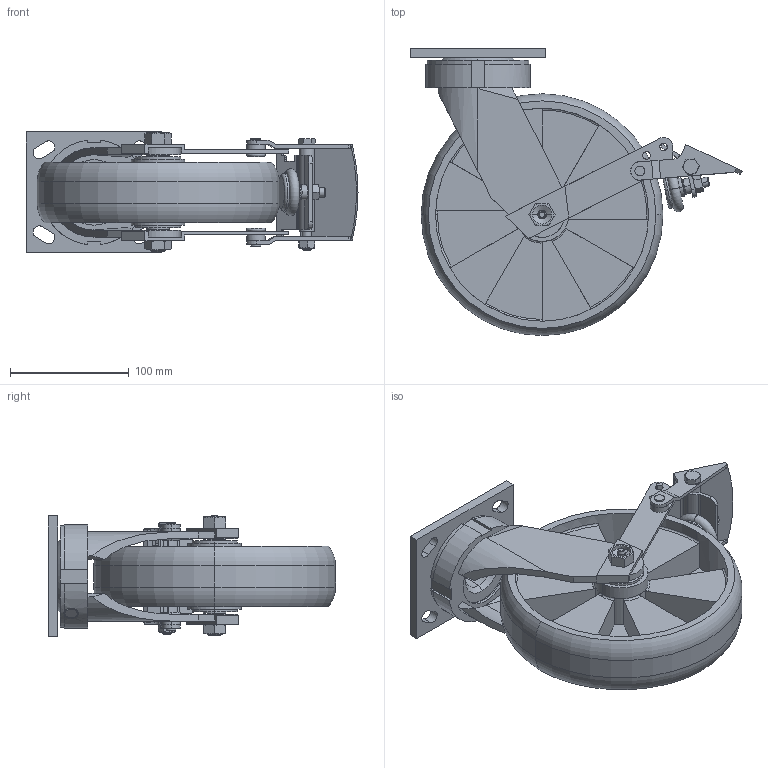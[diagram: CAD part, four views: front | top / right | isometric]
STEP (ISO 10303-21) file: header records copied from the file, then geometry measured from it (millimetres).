
FILE_DESCRIPTION (( 'STEP AP203' ), '1' );
FILE_NAME ('8渡蕨喳僻湍价陬.STEP', '2023-03-06T06:16:47', ( 'amidn' ), ( '' ), 'SwSTEP 2.0', 'SolidWorks 2018', '' );
FILE_SCHEMA (( 'CONFIG_CONTROL_DESIGN' ));
Length unit declared in the file: millimetre
Products named in the file (13): _50116.03^4.08189.539 BRK1(2)_4.08189.539 BRK1; _55000.23^4.08189.539 BRK1(2)_4.08189.539 BRK1; 4.08189.539 BRK1(2)^4.08189.539 BRK1; _SK-9905X95-4 BRK1-F^4.08189.539 BRK1(2)_4.08189.539 BRK1; _05944.20(3.194)^4.08189.539 BRK1(2)_4.08189.539 BRK1; _5.00008.539 (T)^4.08189.539 BRK1(2)_4.08189.539 BRK1; _52000.08^4.08189.539 BRK1(2)_4.08189.539 BRK1; _59044X58-TLBL^4.08189.539 BRK1(2)_4.08189.539 BRK1; _59044X57-TLBR^4.08189.539 BRK1(2)_4.08189.539 BRK1; _59044.42-6-TLP^4.08189.539 BRK1(2)_4.08189.539 BRK1; _SK-9905X63-1P^4.08189.539 BRK1(2)_4.08189.539 BRK1; _59044.49-TLS^4.08189.539 BRK1(2)_4.08189.539 BRK1; 8渡蕨喳僻湍价陬
Assembly tree (13 placements, depth 3):
  8渡蕨喳僻湍价陬
    4.08189.539 BRK1(2)^4.08189.539 BRK1
      _SK-9905X63-1P^4.08189.539 BRK1(2)_4.08189.539 BRK1
      _SK-9905X95-4 BRK1-F^4.08189.539 BRK1(2)_4.08189.539 BRK1
      _05944.20(3.194)^4.08189.539 BRK1(2)_4.08189.539 BRK1
      _59044X58-TLBL^4.08189.539 BRK1(2)_4.08189.539 BRK1
      _59044X57-TLBR^4.08189.539 BRK1(2)_4.08189.539 BRK1
      _59044.42-6-TLP^4.08189.539 BRK1(2)_4.08189.539 BRK1
      _59044.49-TLS^4.08189.539 BRK1(2)_4.08189.539 BRK1
      _5.00008.539 (T)^4.08189.539 BRK1(2)_4.08189.539 BRK1
      _52000.08^4.08189.539 BRK1(2)_4.08189.539 BRK1
      _55000.23^4.08189.539 BRK1(2)_4.08189.539 BRK1
      _50116.03^4.08189.539 BRK1(2)_4.08189.539 BRK1  x2
Bounding box: 279.04 x 241.3 x 102.21 mm (x, y, z)
Volume: 982592.7 mm3; surface area: 332287.8 mm2
Topology: 12 solids, 14 shells, 607 faces, 1482 edges, 939 vertices
Faces by surface type: plane 269, cylinder 203, cone 85, torus 50
Entity records: 20650 total; most frequent: CARTESIAN_POINT 4818, DIRECTION 3174, ORIENTED_EDGE 2924, EDGE_CURVE 1462, AXIS2_PLACEMENT_3D 1248, VERTEX_POINT 927, EDGE_LOOP 679, LINE 678
